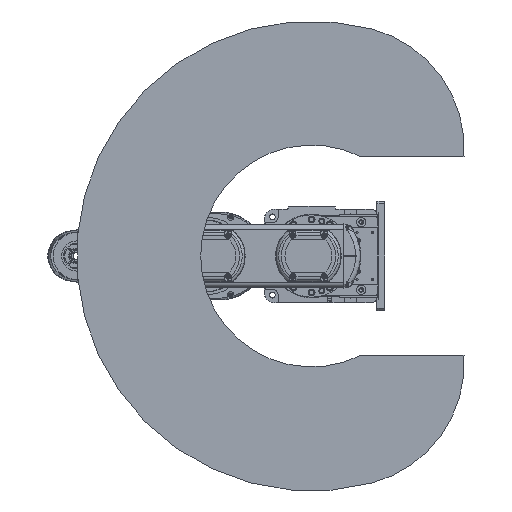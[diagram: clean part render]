
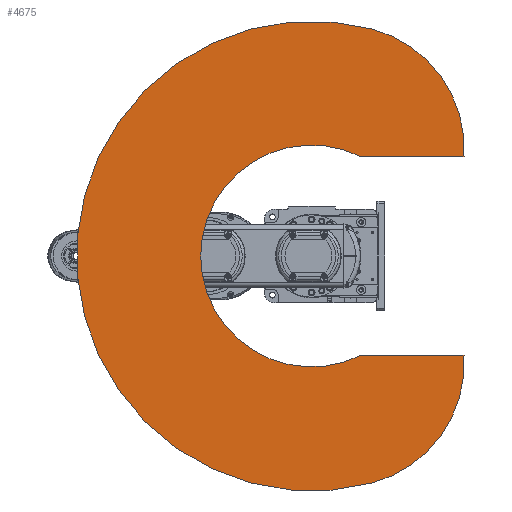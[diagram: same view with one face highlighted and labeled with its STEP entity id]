
A CAD part, front view. The second image highlights one B-rep face of the part: STEP entity #4675.
In plain terms, the highlighted planar face has unit normal (0, -1, 0).
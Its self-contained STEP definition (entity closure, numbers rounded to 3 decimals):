
#4675 = ADVANCED_FACE( '', ( #12126 ), #12127, .F. );
#12126 = FACE_OUTER_BOUND( '', #23285, .T. );
#12127 = PLANE( '', #23286 );
#23285 = EDGE_LOOP( '', ( #37820, #37821, #37822, #37823, #37824, #37825 ) );
#23286 = AXIS2_PLACEMENT_3D( '', #37826, #37827, #37828 );
#37820 = ORIENTED_EDGE( '', *, *, #62022, .T. );
#37821 = ORIENTED_EDGE( '', *, *, #62023, .F. );
#37822 = ORIENTED_EDGE( '', *, *, #62024, .F. );
#37823 = ORIENTED_EDGE( '', *, *, #61662, .F. );
#37824 = ORIENTED_EDGE( '', *, *, #62025, .T. );
#37825 = ORIENTED_EDGE( '', *, *, #62026, .F. );
#37826 = CARTESIAN_POINT( '', ( 102.614, 0., 27.495 ) );
#37827 = DIRECTION( '', ( 0., 1., 0. ) );
#37828 = DIRECTION( '', ( 0., 0., 1. ) );
#61662 = EDGE_CURVE( '', #73521, #73523, #73524, .T. );
#62022 = EDGE_CURVE( '', #74128, #74129, #74130, .T. );
#62023 = EDGE_CURVE( '', #74131, #74129, #74132, .T. );
#62024 = EDGE_CURVE( '', #73523, #74131, #74133, .T. );
#62025 = EDGE_CURVE( '', #73521, #74134, #74135, .T. );
#62026 = EDGE_CURVE( '', #74128, #74134, #74136, .F. );
#73521 = VERTEX_POINT( '', #90906 );
#73523 = VERTEX_POINT( '', #90909 );
#73524 = CIRCLE( '', #90910, 237.533 );
#74128 = VERTEX_POINT( '', #92118 );
#74129 = VERTEX_POINT( '', #92119 );
#74130 = LINE( '', #92120, #92121 );
#74131 = VERTEX_POINT( '', #92122 );
#74132 = CIRCLE( '', #92123, 237.533 );
#74133 = CIRCLE( '', #92124, 450. );
#74134 = VERTEX_POINT( '', #92125 );
#74135 = LINE( '', #92126, #92127 );
#74136 = CIRCLE( '', #92128, 212.47 );
#90906 = CARTESIAN_POINT( '', ( 190., 0., 292.035 ) );
#90909 = CARTESIAN_POINT( '', ( 434.667, 0., 116.469 ) );
#90910 = AXIS2_PLACEMENT_3D( '', #112202, #112203, #112204 );
#92118 = CARTESIAN_POINT( '', ( -190., 0., 95.097 ) );
#92119 = CARTESIAN_POINT( '', ( -190., 0., 292.035 ) );
#92120 = CARTESIAN_POINT( '', ( -190., 0., 0. ) );
#92121 = VECTOR( '', #112683, 1000. );
#92122 = CARTESIAN_POINT( '', ( -434.667, 0., 116.469 ) );
#92123 = AXIS2_PLACEMENT_3D( '', #112684, #112685, #112686 );
#92124 = AXIS2_PLACEMENT_3D( '', #112687, #112688, #112689 );
#92125 = CARTESIAN_POINT( '', ( 190., 0., 95.097 ) );
#92126 = CARTESIAN_POINT( '', ( 190., 0., 400. ) );
#92127 = VECTOR( '', #112690, 1000. );
#92128 = AXIS2_PLACEMENT_3D( '', #112691, #112692, #112693 );
#112202 = CARTESIAN_POINT( '', ( 205.228, 0., 54.991 ) );
#112203 = DIRECTION( '', ( 0., 1., 0. ) );
#112204 = DIRECTION( '', ( 1., 0., 0. ) );
#112683 = DIRECTION( '', ( 0., 0., 1. ) );
#112684 = CARTESIAN_POINT( '', ( -205.228, 0., 54.991 ) );
#112685 = DIRECTION( '', ( 0., 1., 0. ) );
#112686 = DIRECTION( '', ( 1., 0., 0. ) );
#112687 = CARTESIAN_POINT( '', ( 0., 0., 0. ) );
#112688 = DIRECTION( '', ( 0., 1., 0. ) );
#112689 = DIRECTION( '', ( 1., 0., 0. ) );
#112690 = DIRECTION( '', ( 0., 0., -1. ) );
#112691 = CARTESIAN_POINT( '', ( 0., 0., 0. ) );
#112692 = DIRECTION( '', ( 0., 1., 0. ) );
#112693 = DIRECTION( '', ( 0., 0., 1. ) );
